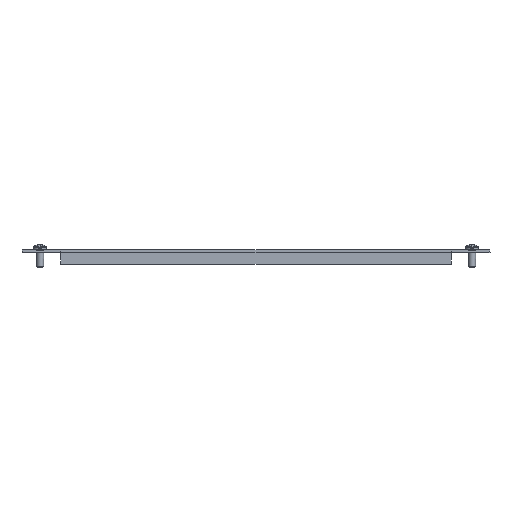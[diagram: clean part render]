
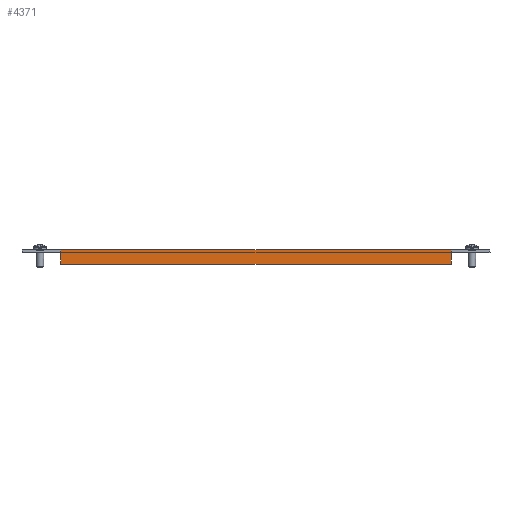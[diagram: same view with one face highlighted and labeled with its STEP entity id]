
A CAD part, front view. The second image highlights one B-rep face of the part: STEP entity #4371.
In plain terms, the highlighted planar face has unit normal (0, -1, 0).
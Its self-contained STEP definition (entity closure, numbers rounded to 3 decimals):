
#245 = LINE ( 'NONE', #3630, #2179 ) ;
#253 = DIRECTION ( 'NONE',  ( -1., 0., 0. ) ) ;
#266 = VECTOR ( 'NONE', #5236, 1000. ) ;
#281 = VECTOR ( 'NONE', #2309, 1000. ) ;
#587 = VERTEX_POINT ( 'NONE', #2331 ) ;
#677 = CARTESIAN_POINT ( 'NONE',  ( -135.5, -935., -10. ) ) ;
#690 = ORIENTED_EDGE ( 'NONE', *, *, #5194, .T. ) ;
#749 = CARTESIAN_POINT ( 'NONE',  ( 135.5, -935., 0. ) ) ;
#933 = ORIENTED_EDGE ( 'NONE', *, *, #5094, .F. ) ;
#1141 = CARTESIAN_POINT ( 'NONE',  ( -135.5, -935., -2.4 ) ) ;
#1331 = CARTESIAN_POINT ( 'NONE',  ( 135.5, -935., -2.4 ) ) ;
#1816 = CARTESIAN_POINT ( 'NONE',  ( 135.5, -935., -10. ) ) ;
#1875 = EDGE_CURVE ( 'NONE', #587, #2889, #4799, .T. ) ;
#1969 = VECTOR ( 'NONE', #5831, 1000. ) ;
#2021 = EDGE_CURVE ( 'NONE', #4213, #2550, #245, .T. ) ;
#2179 = VECTOR ( 'NONE', #5901, 1000. ) ;
#2189 = CARTESIAN_POINT ( 'NONE',  ( -135.5, -935., -10. ) ) ;
#2309 = DIRECTION ( 'NONE',  ( 0., 0., 1. ) ) ;
#2318 = ORIENTED_EDGE ( 'NONE', *, *, #2483, .F. ) ;
#2331 = CARTESIAN_POINT ( 'NONE',  ( 135.5, -935., -10. ) ) ;
#2483 = EDGE_CURVE ( 'NONE', #4551, #4847, #4724, .T. ) ;
#2491 = CARTESIAN_POINT ( 'NONE',  ( 0., -935., 0. ) ) ;
#2504 = EDGE_LOOP ( 'NONE', ( #933, #6551, #690, #2318, #6493, #6218 ) ) ;
#2550 = VERTEX_POINT ( 'NONE', #749 ) ;
#2651 = LINE ( 'NONE', #5659, #281 ) ;
#2669 = AXIS2_PLACEMENT_3D ( 'NONE', #2491, #7121, #7195 ) ;
#2889 = VERTEX_POINT ( 'NONE', #2189 ) ;
#3120 = FACE_OUTER_BOUND ( 'NONE', #2504, .T. ) ;
#3313 = EDGE_CURVE ( 'NONE', #2889, #4551, #2651, .T. ) ;
#3479 = DIRECTION ( 'NONE',  ( 0., 0., 1. ) ) ;
#3563 = LINE ( 'NONE', #1816, #1969 ) ;
#3630 = CARTESIAN_POINT ( 'NONE',  ( 135.5, -935., -2.4 ) ) ;
#3832 = VECTOR ( 'NONE', #3479, 1000. ) ;
#3995 = VECTOR ( 'NONE', #253, 1000. ) ;
#4213 = VERTEX_POINT ( 'NONE', #1331 ) ;
#4371 = ADVANCED_FACE ( 'NONE', ( #3120 ), #4911, .T. ) ;
#4551 = VERTEX_POINT ( 'NONE', #1141 ) ;
#4724 = LINE ( 'NONE', #6307, #3832 ) ;
#4799 = LINE ( 'NONE', #677, #266 ) ;
#4847 = VERTEX_POINT ( 'NONE', #4999 ) ;
#4911 = PLANE ( 'NONE',  #2669 ) ;
#4913 = CARTESIAN_POINT ( 'NONE',  ( 0., -935., 0. ) ) ;
#4999 = CARTESIAN_POINT ( 'NONE',  ( -135.5, -935., 0. ) ) ;
#5094 = EDGE_CURVE ( 'NONE', #4213, #587, #3563, .T. ) ;
#5194 = EDGE_CURVE ( 'NONE', #2550, #4847, #5983, .T. ) ;
#5236 = DIRECTION ( 'NONE',  ( -1., 0., 0. ) ) ;
#5659 = CARTESIAN_POINT ( 'NONE',  ( -135.5, -935., -1.8 ) ) ;
#5831 = DIRECTION ( 'NONE',  ( 0., 0., -1. ) ) ;
#5901 = DIRECTION ( 'NONE',  ( 0., 0., 1. ) ) ;
#5983 = LINE ( 'NONE', #4913, #3995 ) ;
#6218 = ORIENTED_EDGE ( 'NONE', *, *, #1875, .F. ) ;
#6307 = CARTESIAN_POINT ( 'NONE',  ( -135.5, -935., 0. ) ) ;
#6493 = ORIENTED_EDGE ( 'NONE', *, *, #3313, .F. ) ;
#6551 = ORIENTED_EDGE ( 'NONE', *, *, #2021, .T. ) ;
#7121 = DIRECTION ( 'NONE',  ( 0., -1., 0. ) ) ;
#7195 = DIRECTION ( 'NONE',  ( 0., 0., -1. ) ) ;
